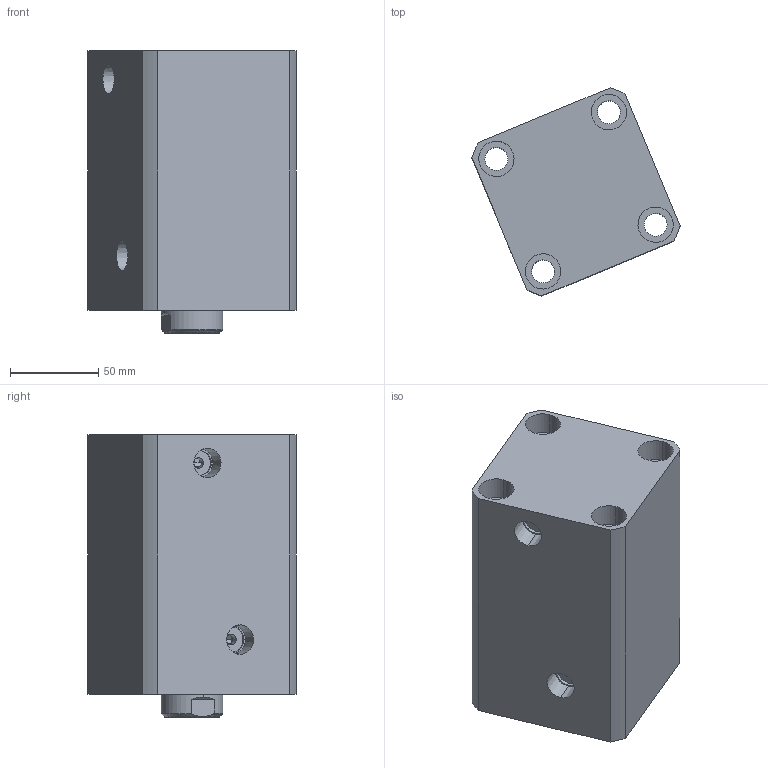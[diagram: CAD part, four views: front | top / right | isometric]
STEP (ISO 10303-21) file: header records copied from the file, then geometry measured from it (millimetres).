
FILE_DESCRIPTION (( 'STEP AP214' ), '1' );
FILE_NAME ('chtb-sd63x80n_asm.STEP', '2018-05-09T01:52:13', ( 'Windows' ), ( 'Microsoft' ), 'SwSTEP 2.0', 'SolidWorks 2015', '' );
FILE_SCHEMA (( 'AUTOMOTIVE_DESIGN' ));
Length unit declared in the file: millimetre
Products named in the file (4): CHTB63X80NBT; CHTB-63QG; chtb-sd63x80n_asm; CHTB63X80NHSG
Assembly tree (3 placements, depth 2):
  chtb-sd63x80n_asm
    CHTB-63QG
    CHTB63X80NBT
    CHTB63X80NHSG
Bounding box: 117.81 x 117.81 x 160 mm (x, y, z)
Volume: 1015425.6 mm3; surface area: 169483 mm2
Topology: 3 solids, 3 shells, 165 faces, 465 edges, 318 vertices
Faces by surface type: cylinder 101, plane 33, bspline 12, cone 12, torus 7
Entity records: 17638 total; most frequent: CARTESIAN_POINT 13505, ORIENTED_EDGE 918, DIRECTION 719, EDGE_CURVE 459, VERTEX_POINT 318, AXIS2_PLACEMENT_3D 291, EDGE_LOOP 197, ADVANCED_FACE 165
